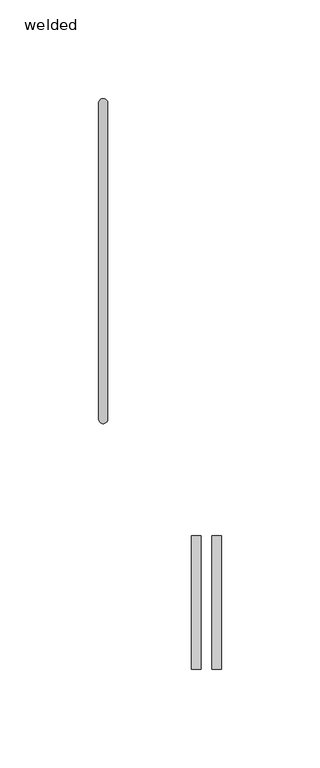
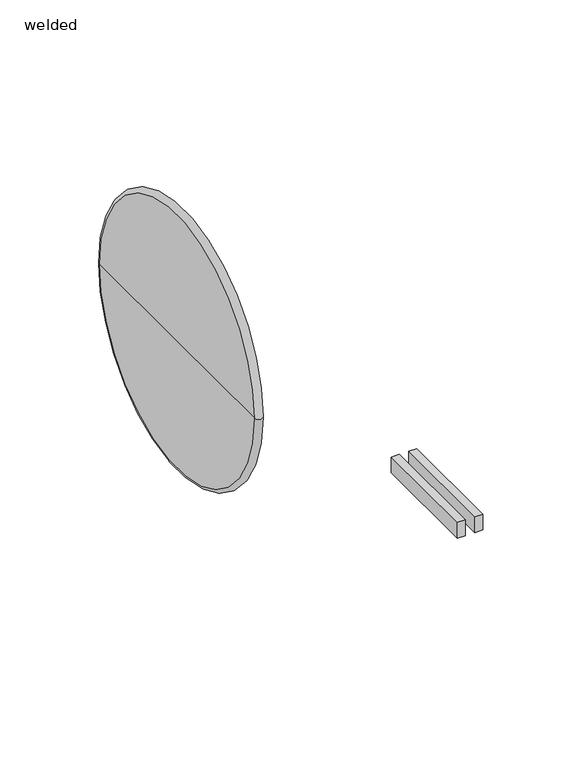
"""IFC4 building model written with IfcOpenShell, lengths in millimetres: pipe fitting geometry, PIF_HDPE weld_Akatherm : welded."""

from ifc_helpers import new_model, si_unit, point, frame, origin, place, context, project, spatial, polyline, circle_curve, ellipse_curve, trimmed, outline, extrude, source, transform, mapped, element, save
from ifc_brep_helpers import plane_surface, revolved_surface, advanced_brep


def welded_60098e8d(model_context):
    return source(origin(), model_context, "Body", "SolidModel", [
        extrude(outline(polyline([(42.5311847, -206.9421922), (42.5311847, -139.143993), (47.3087456, -139.143993), (47.3087456, -206.9421922), (42.5311847, -206.9421922)])), frame((0.0, 0.0, -15.0), z_axis=(0.0, 0.0, 1.0), x_axis=(1.0, 0.0, 0.0)), (0.0, 0.0, 1.0), 10.0),
        extrude(outline(polyline([(52.9005519, -206.9421922), (52.9005519, -139.143993), (57.6781127, -139.143993), (57.6781127, -206.9421922), (52.9005519, -206.9421922)])), frame((0.0, 0.0, -15.0), z_axis=(0.0, 0.0, 1.0), x_axis=(1.0, 0.0, 0.0)), (0.0, 0.0, 1.0), 10.0),
        advanced_brep(
        [(-4.7, -80.0, 0.0), (-4.7, 80.0, 0.0), (0.0, 80.0, 0.0), (0.0, -80.0, 0.0), (-4.7, 0.0, 0.0), (0.0, 0.0, 0.0)],
        [
            (0, 1, circle_curve(frame((-4.7, 0.0, 0.0), z_axis=(1.0, 0.0, 0.0), x_axis=(0.0, 1.0, 0.0)), 80.0)),
            (1, 2, circle_curve(frame((-2.35, 80.0, 0.0), z_axis=(0.0, 0.0, -1.0), x_axis=(1.0, 0.0, 0.0)), 2.35)),
            (2, 3, circle_curve(frame((0.0, 0.0, 0.0), z_axis=(-1.0, 0.0, 0.0), x_axis=(0.0, 1.0, 0.0)), 80.0)),
            (3, 0, circle_curve(frame((-2.35, -80.0, 0.0), z_axis=(0.0, 0.0, -1.0), x_axis=(1.0, 0.0, 0.0)), 2.35)),
            (1, 0, circle_curve(frame((-4.7, 0.0, 0.0), z_axis=(1.0, 0.0, 0.0), x_axis=(0.0, 1.0, 0.0)), 80.0)),
            (3, 2, circle_curve(frame((0.0, 0.0, 0.0), z_axis=(-1.0, 0.0, 0.0), x_axis=(0.0, 1.0, 0.0)), 80.0)),
            (4, 1),
            (0, 4),
            (2, 5),
            (5, 3),
        ],
        [
            revolved_surface(trimmed(ellipse_curve(frame((-2.35, 80.0, 0.0), z_axis=(0.0, 0.0, 1.0), x_axis=(1.0, 0.0, 0.0)), 2.35, 2.35), [point((0.0, 80.0, 0.0))], [point((-4.7, 80.0, 0.0))], True, "CARTESIAN"), (-42.85, 0.0, 0.0), (-1.0, 0.0, 0.0)),
            plane_surface(frame((-4.7, 0.0, 0.0), z_axis=(-1.0, 0.0, 0.0), x_axis=(0.0, 1.0, 0.0))),
            plane_surface(frame((0.0, 0.0, 0.0), z_axis=(1.0, 0.0, 0.0), x_axis=(0.0, 1.0, 0.0))),
        ],
        [
            (0, [[1, 2, 3, 4]]),
            (0, [[5, -4, 6, -2]]),
            (1, [[7, -1, 8]]),
            (1, [[-8, -5, -7]]),
            (2, [[-3, 9, 10]]),
            (2, [[-6, -10, -9]]),
        ],
    ),
    ])


if __name__ == "__main__":
    model = new_model("IFC4")
    model_context = context("Model", 3, world=origin())
    ifc_project = project(units=[si_unit("LENGTHUNIT", "METRE", prefix="MILLI")], contexts=[model_context])
    site = spatial("IfcSite", under=ifc_project)
    building = spatial("IfcBuilding", under=site)
    placement = place(None, origin())
    welded_shape = welded_60098e8d(model_context)
    element("IfcPipeFitting", 1, ObjectType="PIF_HDPE weld_Akatherm : welded", at=placement, inside=building, context=model_context, shape_type="MappedRepresentation", body=[
        mapped(welded_shape, transform((0.0, 0.0, 0.0), x_axis=(1.0, 0.0, 0.0), y_axis=(0.0, 1.0, 0.0), z_axis=(0.0, 0.0, 1.0))),
    ])
    save(model, "model.ifc")
